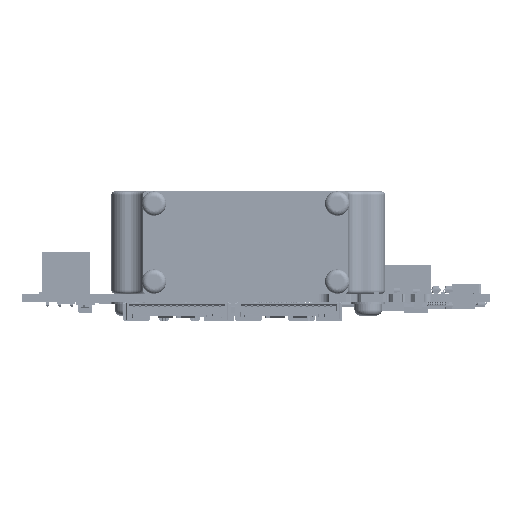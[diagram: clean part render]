
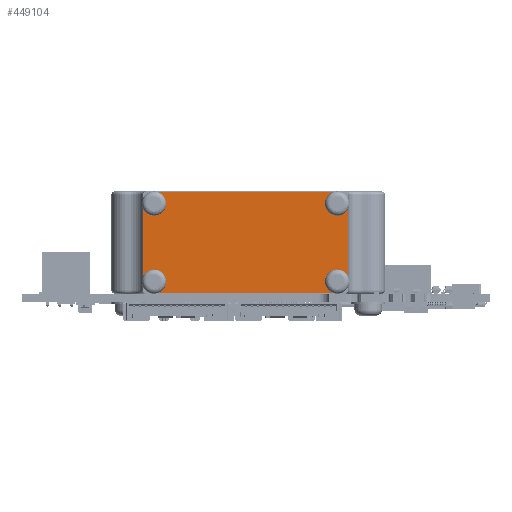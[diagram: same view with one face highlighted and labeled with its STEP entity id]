
A CAD part, left-side view. The second image highlights one B-rep face of the part: STEP entity #449104.
In plain terms, the highlighted planar face has unit normal (-1, 0, 0).
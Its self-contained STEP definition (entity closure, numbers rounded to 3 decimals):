
#67525=CARTESIAN_POINT('',(107.031,-121.654,4.1));
#67526=DIRECTION('',(-1.,0.,0.));
#67527=DIRECTION('',(0.,0.,1.));
#67528=AXIS2_PLACEMENT_3D('',#67525,#67526,#67527);
#67530=DIRECTION('',(0.,-1.,0.));
#67531=VECTOR('',#67530,36.2);
#67532=CARTESIAN_POINT('',(107.031,-84.754,1.7));
#67533=LINE('',#67532,#67531);
#67534=CARTESIAN_POINT('',(107.031,-84.054,4.1));
#67535=DIRECTION('',(-1.,0.,0.));
#67536=DIRECTION('',(0.,-0.28,-0.96));
#67537=AXIS2_PLACEMENT_3D('',#67534,#67535,#67536);
#67539=CARTESIAN_POINT('',(107.031,-84.054,4.1));
#67540=DIRECTION('',(-1.,0.,0.));
#67541=DIRECTION('',(0.,0.,1.));
#67542=AXIS2_PLACEMENT_3D('',#67539,#67540,#67541);
#67544=DIRECTION('',(0.,0.,-1.));
#67545=VECTOR('',#67544,13.625);
#67546=CARTESIAN_POINT('',(107.031,-81.854,18.913));
#67547=LINE('',#67546,#67545);
#67548=CARTESIAN_POINT('',(107.031,-84.054,20.1));
#67549=DIRECTION('',(-1.,0.,0.));
#67550=DIRECTION('',(0.,0.88,-0.475));
#67551=AXIS2_PLACEMENT_3D('',#67548,#67549,#67550);
#67553=CARTESIAN_POINT('',(107.031,-84.054,20.1));
#67554=DIRECTION('',(-1.,0.,0.));
#67555=DIRECTION('',(0.,0.,-1.));
#67556=AXIS2_PLACEMENT_3D('',#67553,#67554,#67555);
#67558=DIRECTION('',(0.,1.,0.));
#67559=VECTOR('',#67558,36.2);
#67560=CARTESIAN_POINT('',(107.031,-120.954,22.5));
#67561=LINE('',#67560,#67559);
#67562=CARTESIAN_POINT('',(107.031,-121.654,20.1));
#67563=DIRECTION('',(-1.,0.,0.));
#67564=DIRECTION('',(0.,0.28,0.96));
#67565=AXIS2_PLACEMENT_3D('',#67562,#67563,#67564);
#67567=CARTESIAN_POINT('',(107.031,-121.654,20.1));
#67568=DIRECTION('',(-1.,0.,0.));
#67569=DIRECTION('',(0.,0.,-1.));
#67570=AXIS2_PLACEMENT_3D('',#67567,#67568,#67569);
#67572=DIRECTION('',(0.,0.,1.));
#67573=VECTOR('',#67572,13.625);
#67574=CARTESIAN_POINT('',(107.031,-123.854,5.287));
#67575=LINE('',#67574,#67573);
#67576=CARTESIAN_POINT('',(107.031,-121.654,4.1));
#67577=DIRECTION('',(-1.,0.,0.));
#67578=DIRECTION('',(0.,-0.88,0.475));
#67579=AXIS2_PLACEMENT_3D('',#67576,#67577,#67578);
#368829=CARTESIAN_POINT('',(107.031,-81.854,18.913));
#368831=VERTEX_POINT('',#368829);
#368832=CARTESIAN_POINT('',(107.031,-84.054,17.6));
#368833=VERTEX_POINT('',#368832);
#368834=CARTESIAN_POINT('',(107.031,-84.754,22.5));
#368835=VERTEX_POINT('',#368834);
#368841=CARTESIAN_POINT('',(107.031,-123.854,18.913));
#368843=VERTEX_POINT('',#368841);
#368844=CARTESIAN_POINT('',(107.031,-120.954,22.5));
#368845=CARTESIAN_POINT('',(107.031,-121.654,17.6));
#368846=VERTEX_POINT('',#368844);
#368847=VERTEX_POINT('',#368845);
#368853=CARTESIAN_POINT('',(107.031,-81.854,5.287));
#368855=VERTEX_POINT('',#368853);
#368856=CARTESIAN_POINT('',(107.031,-84.054,6.6));
#368857=VERTEX_POINT('',#368856);
#368858=CARTESIAN_POINT('',(107.031,-84.754,1.7));
#368859=VERTEX_POINT('',#368858);
#368865=CARTESIAN_POINT('',(107.031,-123.854,5.287));
#368867=VERTEX_POINT('',#368865);
#368868=CARTESIAN_POINT('',(107.031,-121.654,6.6));
#368869=CARTESIAN_POINT('',(107.031,-120.954,1.7));
#368870=VERTEX_POINT('',#368868);
#368871=VERTEX_POINT('',#368869);
#449074=CARTESIAN_POINT('',(107.031,-102.854,12.1));
#449075=DIRECTION('',(-1.,0.,0.));
#449076=DIRECTION('',(0.,-1.,0.));
#449077=AXIS2_PLACEMENT_3D('',#449074,#449075,#449076);
#449078=PLANE('',#449077);
#449080=ORIENTED_EDGE('',*,*,#449079,.T.);
#449082=ORIENTED_EDGE('',*,*,#449081,.F.);
#449084=ORIENTED_EDGE('',*,*,#449083,.T.);
#449086=ORIENTED_EDGE('',*,*,#449085,.T.);
#449088=ORIENTED_EDGE('',*,*,#449087,.F.);
#449090=ORIENTED_EDGE('',*,*,#449089,.T.);
#449092=ORIENTED_EDGE('',*,*,#449091,.T.);
#449094=ORIENTED_EDGE('',*,*,#449093,.F.);
#449096=ORIENTED_EDGE('',*,*,#449095,.T.);
#449098=ORIENTED_EDGE('',*,*,#449097,.T.);
#449099=ORIENTED_EDGE('',*,*,#449053,.F.);
#449101=ORIENTED_EDGE('',*,*,#449100,.T.);
#449102=EDGE_LOOP('',(#449080,#449082,#449084,#449086,#449088,#449090,#449092,
#449094,#449096,#449098,#449099,#449101));
#449103=FACE_OUTER_BOUND('',#449102,.F.);
#449104=ADVANCED_FACE('',(#449103),#449078,.T.);
#67529=CIRCLE('',#67528,2.5);
#67538=CIRCLE('',#67537,2.5);
#67543=CIRCLE('',#67542,2.5);
#67552=CIRCLE('',#67551,2.5);
#67557=CIRCLE('',#67556,2.5);
#67566=CIRCLE('',#67565,2.5);
#67571=CIRCLE('',#67570,2.5);
#67580=CIRCLE('',#67579,2.5);
#449053=EDGE_CURVE('',#368867,#368843,#67575,.T.);
#449079=EDGE_CURVE('',#368870,#368871,#67529,.T.);
#449081=EDGE_CURVE('',#368859,#368871,#67533,.T.);
#449083=EDGE_CURVE('',#368859,#368857,#67538,.T.);
#449085=EDGE_CURVE('',#368857,#368855,#67543,.T.);
#449087=EDGE_CURVE('',#368831,#368855,#67547,.T.);
#449089=EDGE_CURVE('',#368831,#368833,#67552,.T.);
#449091=EDGE_CURVE('',#368833,#368835,#67557,.T.);
#449093=EDGE_CURVE('',#368846,#368835,#67561,.T.);
#449095=EDGE_CURVE('',#368846,#368847,#67566,.T.);
#449097=EDGE_CURVE('',#368847,#368843,#67571,.T.);
#449100=EDGE_CURVE('',#368867,#368870,#67580,.T.);
